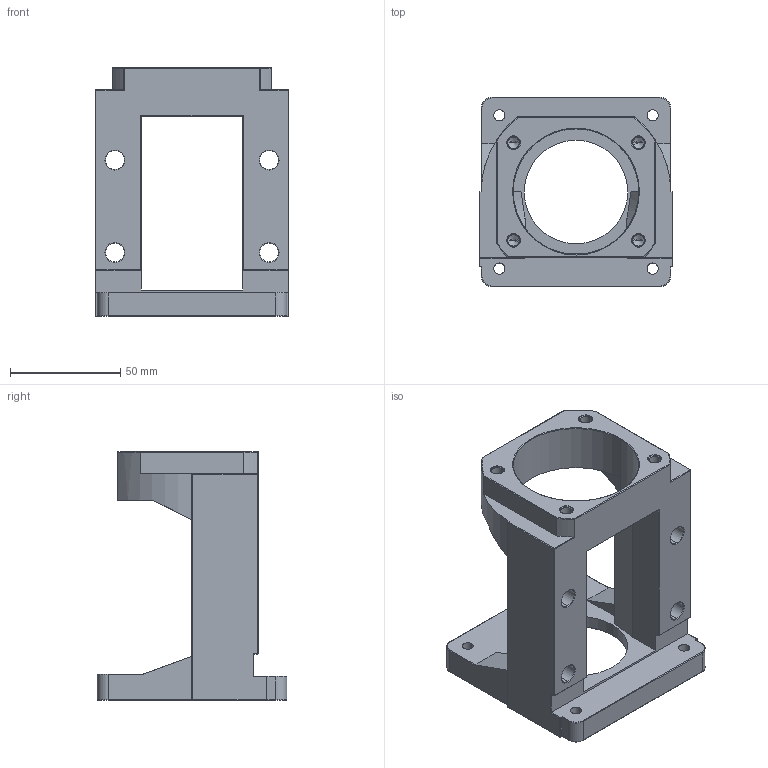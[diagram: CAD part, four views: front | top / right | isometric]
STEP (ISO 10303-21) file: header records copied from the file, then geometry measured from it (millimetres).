
FILE_DESCRIPTION (( 'STEP AP203' ), '1' );
FILE_NAME ('美式傳動座MBL20-F.STEP', '2017-12-28T06:18:26', ( '' ), ( '' ), 'SwSTEP 2.0', 'SolidWorks 2017', '' );
FILE_SCHEMA (( 'CONFIG_CONTROL_DESIGN' ));
Length unit declared in the file: millimetre
Products named in the file (1): 美式傳動座MBL20-F
Bounding box: 88 x 86 x 113 mm (x, y, z)
Volume: 194004.4 mm3; surface area: 50969.5 mm2
Topology: 1 solids, 1 shells, 218 faces, 534 edges, 304 vertices
Faces by surface type: cylinder 94, plane 44, torus 42, cone 26, sphere 12
Entity records: 6377 total; most frequent: CARTESIAN_POINT 1173, DIRECTION 1162, ORIENTED_EDGE 1028, EDGE_CURVE 514, AXIS2_PLACEMENT_3D 465, VERTEX_POINT 304, EDGE_LOOP 246, CIRCLE 246
